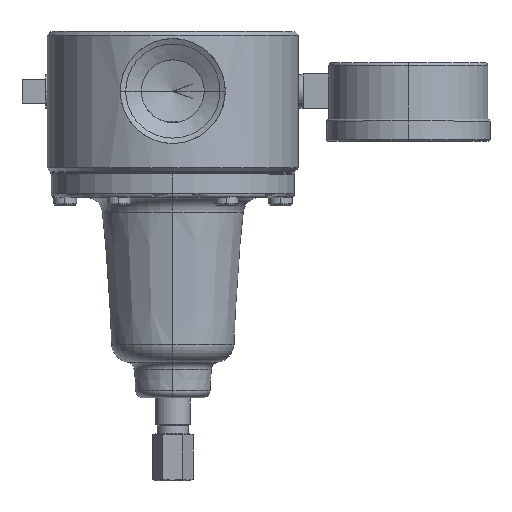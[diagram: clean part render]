
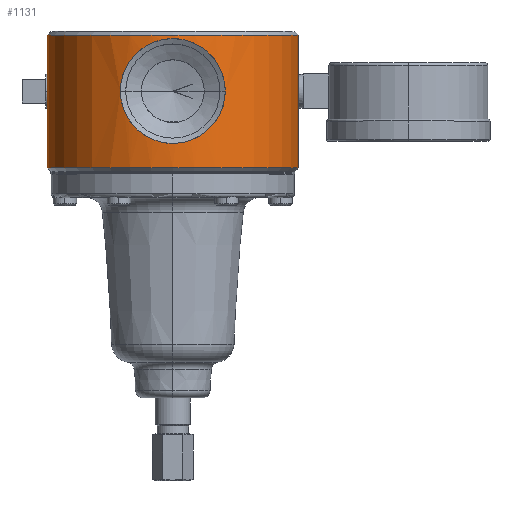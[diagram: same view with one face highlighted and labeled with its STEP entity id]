
A CAD part, top view. The second image highlights one B-rep face of the part: STEP entity #1131.
In plain terms, the highlighted cylindrical face has radius 50.8 mm (diameter 101.6 mm), a partial arc.
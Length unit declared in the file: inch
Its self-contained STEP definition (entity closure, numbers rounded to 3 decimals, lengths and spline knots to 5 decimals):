
#89=CARTESIAN_POINT('',(2.,0.06,-2.00032));
#90=DIRECTION('',(0.,-1.,0.));
#91=DIRECTION('',(1.,0.,0.));
#92=AXIS2_PLACEMENT_3D('',#89,#90,#91);
#94=CARTESIAN_POINT('',(1.165,1.28,-0.18297));
#95=CARTESIAN_POINT('',(1.165,1.32428,-0.18297));
#96=CARTESIAN_POINT('',(1.17197,1.4123,-0.17975));
#97=CARTESIAN_POINT('',(1.2038,1.54368,-0.16545));
#98=CARTESIAN_POINT('',(1.25801,1.67149,-0.14261));
#99=CARTESIAN_POINT('',(1.33484,1.79153,-0.11342));
#100=CARTESIAN_POINT('',(1.43223,1.89787,-0.08154));
#101=CARTESIAN_POINT('',(1.54563,1.98532,-0.05133));
#102=CARTESIAN_POINT('',(1.66965,2.05103,-0.02638));
#103=CARTESIAN_POINT('',(1.79981,2.09442,-0.00889));
#104=CARTESIAN_POINT('',(1.93297,2.1159,0.00005));
#105=CARTESIAN_POINT('',(2.06703,2.1159,0.00005));
#106=CARTESIAN_POINT('',(2.20019,2.09442,-0.00889));
#107=CARTESIAN_POINT('',(2.33035,2.05103,-0.02638));
#108=CARTESIAN_POINT('',(2.45437,1.98532,-0.05133));
#109=CARTESIAN_POINT('',(2.56777,1.89787,-0.08154));
#110=CARTESIAN_POINT('',(2.66516,1.79153,-0.11342));
#111=CARTESIAN_POINT('',(2.74199,1.67149,-0.14261));
#112=CARTESIAN_POINT('',(2.7962,1.54368,-0.16545));
#113=CARTESIAN_POINT('',(2.82803,1.4123,-0.17975));
#114=CARTESIAN_POINT('',(2.835,1.32428,-0.18297));
#115=CARTESIAN_POINT('',(2.835,1.28,-0.18297));
#117=CARTESIAN_POINT('',(2.835,1.28,-0.18297));
#118=CARTESIAN_POINT('',(2.835,1.23572,-0.18297));
#119=CARTESIAN_POINT('',(2.82803,1.1477,-0.17975));
#120=CARTESIAN_POINT('',(2.7962,1.01632,-0.16545));
#121=CARTESIAN_POINT('',(2.74199,0.88851,
-0.14261));
#122=CARTESIAN_POINT('',(2.66516,0.76847,
-0.11342));
#123=CARTESIAN_POINT('',(2.56777,0.66213,
-0.08154));
#124=CARTESIAN_POINT('',(2.45437,0.57468,
-0.05133));
#125=CARTESIAN_POINT('',(2.33035,0.50897,
-0.02638));
#126=CARTESIAN_POINT('',(2.20019,0.46558,
-0.00889));
#127=CARTESIAN_POINT('',(2.06703,0.4441,0.00005));
#128=CARTESIAN_POINT('',(1.93297,0.4441,0.00005));
#129=CARTESIAN_POINT('',(1.79981,0.46558,
-0.00889));
#130=CARTESIAN_POINT('',(1.66965,0.50897,
-0.02638));
#131=CARTESIAN_POINT('',(1.54563,0.57468,
-0.05133));
#132=CARTESIAN_POINT('',(1.43223,0.66213,
-0.08154));
#133=CARTESIAN_POINT('',(1.33484,0.76847,
-0.11342));
#134=CARTESIAN_POINT('',(1.25801,0.88851,
-0.14261));
#135=CARTESIAN_POINT('',(1.2038,1.01632,-0.16545));
#136=CARTESIAN_POINT('',(1.17197,1.1477,-0.17975));
#137=CARTESIAN_POINT('',(1.165,1.23572,-0.18297));
#138=CARTESIAN_POINT('',(1.165,1.28,-0.18297));
#140=DIRECTION('',(0.,1.,0.));
#141=VECTOR('',#140,2.11);
#142=CARTESIAN_POINT('',(4.,0.06,-2.00032));
#143=LINE('',#142,#141);
#144=DIRECTION('',(0.,1.,0.));
#145=VECTOR('',#144,2.11);
#146=CARTESIAN_POINT('',(0.,0.06,-2.00032));
#147=LINE('',#146,#145);
#244=CARTESIAN_POINT('',(2.,2.17,-2.00032));
#245=DIRECTION('',(0.,-1.,0.));
#246=DIRECTION('',(1.,0.,0.));
#247=AXIS2_PLACEMENT_3D('',#244,#245,#246);
#862=CARTESIAN_POINT('',(4.,0.06,-2.00032));
#864=VERTEX_POINT('',#862);
#865=CARTESIAN_POINT('',(4.,2.17,-2.00032));
#866=VERTEX_POINT('',#865);
#870=CARTESIAN_POINT('',(0.,0.06,-2.00032));
#872=VERTEX_POINT('',#870);
#873=CARTESIAN_POINT('',(0.,2.17,-2.00032));
#874=VERTEX_POINT('',#873);
#899=VERTEX_POINT('',#94);
#900=VERTEX_POINT('',#115);
#1111=CARTESIAN_POINT('',(2.,2.3415,-2.00032));
#1112=DIRECTION('',(0.,-1.,0.));
#1113=DIRECTION('',(-1.,0.,0.));
#1114=AXIS2_PLACEMENT_3D('',#1111,#1112,#1113);
#1115=CYLINDRICAL_SURFACE('',#1114,2.);
#1117=ORIENTED_EDGE('',*,*,#1116,.F.);
#1118=ORIENTED_EDGE('',*,*,#1106,.T.);
#1120=ORIENTED_EDGE('',*,*,#1119,.T.);
#1122=ORIENTED_EDGE('',*,*,#1121,.F.);
#1123=EDGE_LOOP('',(#1117,#1118,#1120,#1122));
#1124=FACE_OUTER_BOUND('',#1123,.F.);
#1126=ORIENTED_EDGE('',*,*,#1125,.F.);
#1128=ORIENTED_EDGE('',*,*,#1127,.F.);
#1129=EDGE_LOOP('',(#1126,#1128));
#1130=FACE_BOUND('',#1129,.F.);
#1131=ADVANCED_FACE('',(#1124,#1130),#1115,.T.);
#93=CIRCLE('',#92,2.);
#116=B_SPLINE_CURVE_WITH_KNOTS('',3,(#94,#95,#96,#97,#98,#99,#100,#101,#102,
#103,#104,#105,#106,#107,#108,#109,#110,#111,#112,#113,#114,#115),.UNSPECIFIED.,
.F.,.F.,(4,1,1,1,1,1,1,1,1,1,1,1,1,1,1,1,1,1,1,4),(0.,0.05263,
0.10526,0.15789,0.21053,0.26316,
0.31579,0.36842,0.42105,0.47368,
0.52632,0.57895,0.63158,0.68421,
0.73684,0.78947,0.84211,0.89474,
0.94737,1.),.UNSPECIFIED.);
#139=B_SPLINE_CURVE_WITH_KNOTS('',3,(#117,#118,#119,#120,#121,#122,#123,#124,
#125,#126,#127,#128,#129,#130,#131,#132,#133,#134,#135,#136,#137,#138),
.UNSPECIFIED.,.F.,.F.,(4,1,1,1,1,1,1,1,1,1,1,1,1,1,1,1,1,1,1,4),(0.,
0.05263,0.10526,0.15789,0.21053,
0.26316,0.31579,0.36842,0.42105,
0.47368,0.52632,0.57895,0.63158,
0.68421,0.73684,0.78947,0.84211,
0.89474,0.94737,1.),.UNSPECIFIED.);
#248=CIRCLE('',#247,2.);
#1106=EDGE_CURVE('',#864,#872,#93,.T.);
#1116=EDGE_CURVE('',#864,#866,#143,.T.);
#1119=EDGE_CURVE('',#872,#874,#147,.T.);
#1121=EDGE_CURVE('',#866,#874,#248,.T.);
#1125=EDGE_CURVE('',#899,#900,#116,.T.);
#1127=EDGE_CURVE('',#900,#899,#139,.T.);
